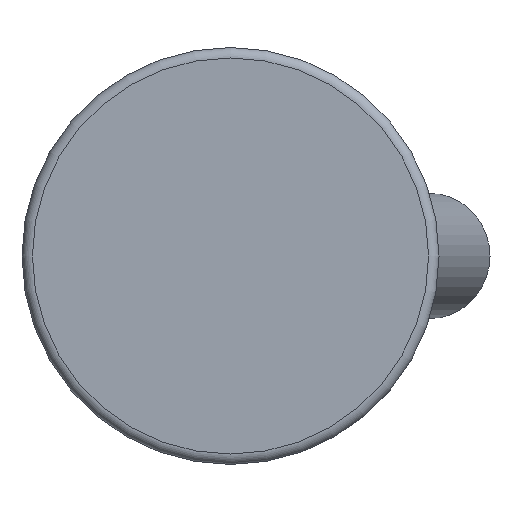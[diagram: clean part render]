
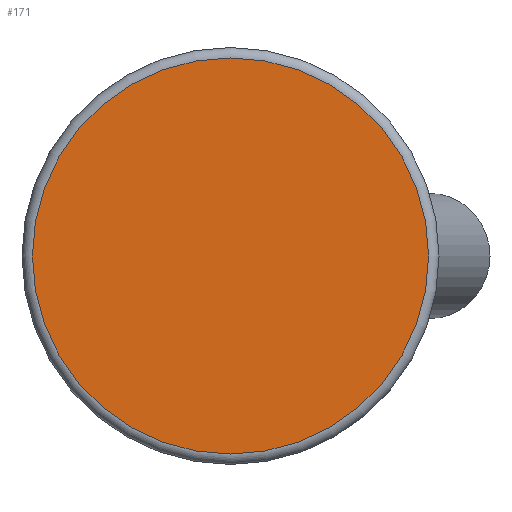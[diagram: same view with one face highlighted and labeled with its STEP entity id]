
A CAD part, front view. The second image highlights one B-rep face of the part: STEP entity #171.
In plain terms, the highlighted planar face has unit normal (0, -1, 0).
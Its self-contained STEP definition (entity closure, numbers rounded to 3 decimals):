
#171 = ADVANCED_FACE( '', ( #346 ), #347, .F. );
#346 = FACE_OUTER_BOUND( '', #546, .T. );
#347 = PLANE( '', #547 );
#546 = EDGE_LOOP( '', ( #797 ) );
#547 = AXIS2_PLACEMENT_3D( '', #798, #799, #800 );
#797 = ORIENTED_EDGE( '', *, *, #1121, .T. );
#798 = CARTESIAN_POINT( '', ( 19., 0., 0. ) );
#799 = DIRECTION( '', ( 0., 1., 0. ) );
#800 = DIRECTION( '', ( 0., 0., 1. ) );
#1121 = EDGE_CURVE( '', #1289, #1289, #1290, .T. );
#1289 = VERTEX_POINT( '', #1547 );
#1290 = CIRCLE( '', #1548, 19. );
#1547 = CARTESIAN_POINT( '', ( 0., 0., -19. ) );
#1548 = AXIS2_PLACEMENT_3D( '', #1998, #1999, #2000 );
#1998 = CARTESIAN_POINT( '', ( 0., 0., 0. ) );
#1999 = DIRECTION( '', ( 0., -1., 0. ) );
#2000 = DIRECTION( '', ( 0., 0., -1. ) );
